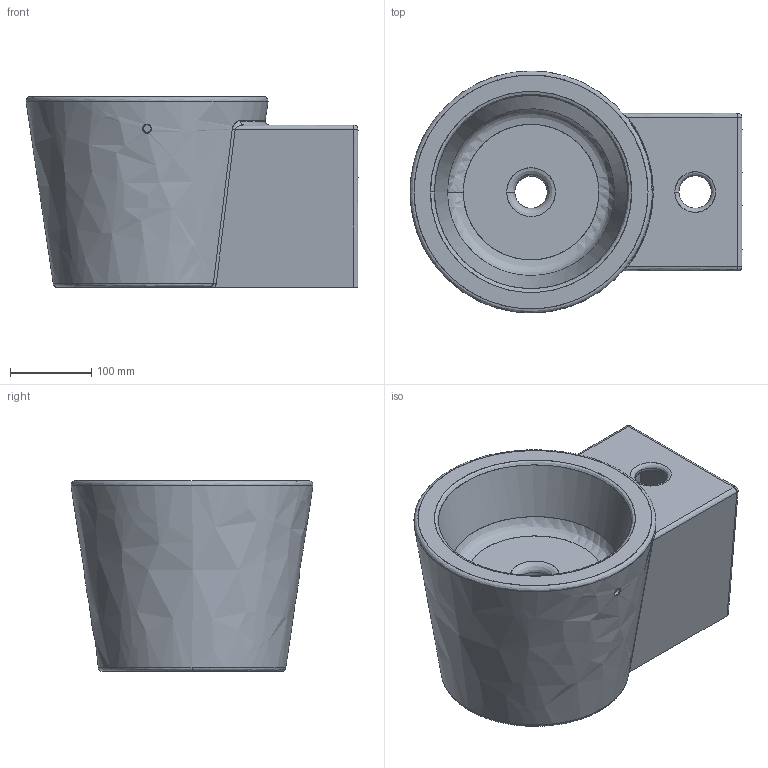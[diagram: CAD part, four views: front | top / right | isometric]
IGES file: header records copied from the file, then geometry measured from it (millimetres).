
Start section: C
Global section: file name: Lavabo Bucket 30-R.igs; native system:  By UGS Corp.; preprocessor: XPlus GENERIC/IGES 3.0; author: Author; organization: Title; date: 20120629.164445; units: millimetre
Bounding box: 409.2 x 298.23 x 235 mm (x, y, z)
Surface area: 600701.6 mm2 (no closed solid volume)
Topology: 0 solids, 0 shells, 98 faces, 516 edges, 512 vertices
Faces by surface type: bspline 98
